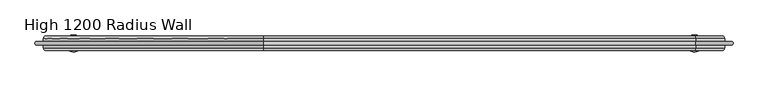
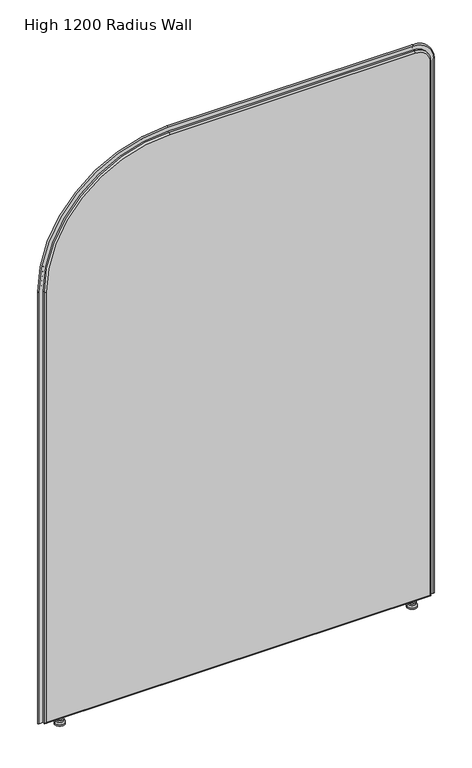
"""IFC4 building model written with IfcOpenShell, lengths in millimetres: furniture geometry, DBLTD_Sixteen3_PrivacyScreens_Artus_ArchRadius : High 1200 Radius Wall."""

from ifc_helpers import new_model, si_unit, point, frame, origin, place, context, project, spatial, polyline, circle_curve, ellipse_curve, trimmed, source, transform, mapped, element, save
from ifc_brep_helpers import plane_surface, cylinder_surface, revolved_surface, advanced_brep


def high_1200_radius_wall_2fde37d9(model_context):
    return source(origin(), model_context, "Body", "AdvancedBrep", [
        advanced_brep(
        [(542.2938623, -820.0, 22.0), (535.2938623, -820.0, 22.0), (549.2938623, -820.0, 22.0), (535.2938623, -820.0, 15.0), (549.2938623, -820.0, 15.0), (530.8431626, -820.0, 15.0), (553.744562, -820.0, 15.0), (530.8431626, -820.0, 10.0), (553.744562, -820.0, 10.0), (527.2938623, -820.0, 5.0), (557.2938623, -820.0, 5.0), (527.2938623, -820.0, 0.0), (557.2938623, -820.0, 0.0), (542.2938623, -820.0, 0.0)],
        [
            (0, 1),
            (1, 2, circle_curve(frame((542.2938623, -820.0, 22.0), z_axis=(0.0, 0.0, 1.0), x_axis=(1.0, 0.0, 0.0)), 7.0)),
            (2, 0),
            (2, 1, circle_curve(frame((542.2938623, -820.0, 22.0), z_axis=(0.0, 0.0, 1.0), x_axis=(1.0, 0.0, 0.0)), 7.0)),
            (1, 3),
            (3, 4, circle_curve(frame((542.2938623, -820.0, 15.0), z_axis=(0.0, 0.0, 1.0), x_axis=(1.0, 0.0, 0.0)), 7.0)),
            (4, 2),
            (4, 3, circle_curve(frame((542.2938623, -820.0, 15.0), z_axis=(0.0, 0.0, 1.0), x_axis=(1.0, 0.0, 0.0)), 7.0)),
            (3, 5),
            (5, 6, circle_curve(frame((542.2938623, -820.0, 15.0), z_axis=(0.0, 0.0, 1.0), x_axis=(1.0, 0.0, 0.0)), 11.4506997)),
            (6, 4),
            (6, 5, circle_curve(frame((542.2938623, -820.0, 15.0), z_axis=(0.0, 0.0, 1.0), x_axis=(1.0, 0.0, 0.0)), 11.4506997)),
            (5, 7),
            (7, 8, circle_curve(frame((542.2938623, -820.0, 10.0), z_axis=(0.0, 0.0, 1.0), x_axis=(1.0, 0.0, 0.0)), 11.4506997)),
            (8, 6),
            (8, 7, circle_curve(frame((542.2938623, -820.0, 10.0), z_axis=(0.0, 0.0, 1.0), x_axis=(1.0, 0.0, 0.0)), 11.4506997)),
            (7, 9),
            (9, 10, circle_curve(frame((542.2938623, -820.0, 5.0), z_axis=(0.0, 0.0, 1.0), x_axis=(1.0, 0.0, 0.0)), 15.0)),
            (10, 8),
            (10, 9, circle_curve(frame((542.2938623, -820.0, 5.0), z_axis=(0.0, 0.0, 1.0), x_axis=(1.0, 0.0, 0.0)), 15.0)),
            (9, 11),
            (11, 12, circle_curve(frame((542.2938623, -820.0, 0.0), z_axis=(0.0, 0.0, 1.0), x_axis=(1.0, 0.0, 0.0)), 15.0)),
            (12, 10),
            (12, 11, circle_curve(frame((542.2938623, -820.0, 0.0), z_axis=(0.0, 0.0, 1.0), x_axis=(1.0, 0.0, 0.0)), 15.0)),
            (11, 13),
            (13, 12),
        ],
        [
            plane_surface(frame((542.2938623, -820.0, 22.0), z_axis=(0.0, 0.0, 1.0), x_axis=(1.0, 0.0, 0.0))),
            cylinder_surface(frame((542.2938623, -820.0, 5.0), z_axis=(0.0, 0.0, 1.0), x_axis=(1.0, 0.0, 0.0)), 7.0),
            plane_surface(frame((542.2938623, -820.0, 15.0), z_axis=(0.0, 0.0, 1.0), x_axis=(1.0, 0.0, 0.0))),
            cylinder_surface(frame((542.2938623, -820.0, 5.0), z_axis=(0.0, 0.0, 1.0), x_axis=(1.0, 0.0, 0.0)), 11.4506997),
            revolved_surface(polyline([(557.2938623, -820.0, 5.0), (553.744562, -820.0, 10.0)]), (542.2938623, -820.0, 5.0), (0.0, 0.0, 1.0)),
            cylinder_surface(frame((542.2938623, -820.0, 5.0), z_axis=(0.0, 0.0, 1.0), x_axis=(1.0, 0.0, 0.0)), 15.0),
            plane_surface(frame((542.2938623, -820.0, 0.0), z_axis=(0.0, 0.0, -1.0), x_axis=(1.0, 0.0, 0.0))),
        ],
        [
            (0, [[1, 2, 3]]),
            (0, [[-3, 4, -1]]),
            (1, [[5, 6, 7, -2]]),
            (1, [[-7, 8, -5, -4]]),
            (2, [[9, 10, 11, -6]]),
            (2, [[-11, 12, -9, -8]]),
            (3, [[13, 14, 15, -10]]),
            (3, [[-15, 16, -13, -12]]),
            (4, [[17, 18, 19, -14]]),
            (4, [[-19, 20, -17, -16]]),
            (5, [[21, 22, 23, -18]]),
            (5, [[-23, 24, -21, -20]]),
            (6, [[25, 26, -22]]),
            (6, [[-26, -25, -24]]),
        ],
    ),
        advanced_brep(
        [(-535.2938623, -820.0, 22.0), (-542.2938623, -820.0, 22.0), (-549.2938623, -820.0, 22.0), (-535.2938623, -820.0, 15.0), (-549.2938623, -820.0, 15.0), (-530.8431626, -820.0, 15.0), (-553.744562, -820.0, 15.0), (-530.8431626, -820.0, 10.0), (-553.744562, -820.0, 10.0), (-527.2938623, -820.0, 5.0), (-557.2938623, -820.0, 5.0), (-527.2938623, -820.0, 0.0), (-557.2938623, -820.0, 0.0), (-542.2938623, -820.0, 0.0)],
        [
            (0, 1),
            (1, 2),
            (2, 0, circle_curve(frame((-542.2938623, -820.0, 22.0), z_axis=(0.0, 0.0, 1.0), x_axis=(-1.0, 0.0, 0.0)), 7.0)),
            (0, 2, circle_curve(frame((-542.2938623, -820.0, 22.0), z_axis=(0.0, 0.0, 1.0), x_axis=(-1.0, 0.0, 0.0)), 7.0)),
            (3, 0),
            (2, 4),
            (4, 3, circle_curve(frame((-542.2938623, -820.0, 15.0), z_axis=(0.0, 0.0, 1.0), x_axis=(-1.0, 0.0, 0.0)), 7.0)),
            (3, 4, circle_curve(frame((-542.2938623, -820.0, 15.0), z_axis=(0.0, 0.0, 1.0), x_axis=(-1.0, 0.0, 0.0)), 7.0)),
            (5, 3),
            (4, 6),
            (6, 5, circle_curve(frame((-542.2938623, -820.0, 15.0), z_axis=(0.0, 0.0, 1.0), x_axis=(-1.0, 0.0, 0.0)), 11.4506997)),
            (5, 6, circle_curve(frame((-542.2938623, -820.0, 15.0), z_axis=(0.0, 0.0, 1.0), x_axis=(-1.0, 0.0, 0.0)), 11.4506997)),
            (7, 5),
            (6, 8),
            (8, 7, circle_curve(frame((-542.2938623, -820.0, 10.0), z_axis=(0.0, 0.0, 1.0), x_axis=(-1.0, 0.0, 0.0)), 11.4506997)),
            (7, 8, circle_curve(frame((-542.2938623, -820.0, 10.0), z_axis=(0.0, 0.0, 1.0), x_axis=(-1.0, 0.0, 0.0)), 11.4506997)),
            (9, 7),
            (8, 10),
            (10, 9, circle_curve(frame((-542.2938623, -820.0, 5.0), z_axis=(0.0, 0.0, 1.0), x_axis=(-1.0, 0.0, 0.0)), 15.0)),
            (9, 10, circle_curve(frame((-542.2938623, -820.0, 5.0), z_axis=(0.0, 0.0, 1.0), x_axis=(-1.0, 0.0, 0.0)), 15.0)),
            (11, 9),
            (10, 12),
            (12, 11, circle_curve(frame((-542.2938623, -820.0, 0.0), z_axis=(0.0, 0.0, 1.0), x_axis=(-1.0, 0.0, 0.0)), 15.0)),
            (11, 12, circle_curve(frame((-542.2938623, -820.0, 0.0), z_axis=(0.0, 0.0, 1.0), x_axis=(-1.0, 0.0, 0.0)), 15.0)),
            (13, 11),
            (12, 13),
        ],
        [
            plane_surface(frame((-542.2938623, -820.0, 22.0), z_axis=(0.0, 0.0, 1.0), x_axis=(-1.0, 0.0, 0.0))),
            cylinder_surface(frame((-542.2938623, -820.0, 5.0), z_axis=(0.0, 0.0, -1.0), x_axis=(-1.0, 0.0, 0.0)), 7.0),
            plane_surface(frame((-542.2938623, -820.0, 15.0), z_axis=(0.0, 0.0, 1.0), x_axis=(-1.0, 0.0, 0.0))),
            cylinder_surface(frame((-542.2938623, -820.0, 5.0), z_axis=(0.0, 0.0, -1.0), x_axis=(-1.0, 0.0, 0.0)), 11.4506997),
            revolved_surface(polyline([(-553.744562, -820.0, 10.0), (-557.2938623, -820.0, 5.0)]), (-542.2938623, -820.0, 5.0), (0.0, 0.0, -1.0)),
            cylinder_surface(frame((-542.2938623, -820.0, 5.0), z_axis=(0.0, 0.0, -1.0), x_axis=(-1.0, 0.0, 0.0)), 15.0),
            plane_surface(frame((-542.2938623, -820.0, 0.0), z_axis=(0.0, 0.0, -1.0), x_axis=(-1.0, 0.0, 0.0))),
        ],
        [
            (0, [[1, 2, 3]]),
            (0, [[-2, -1, 4]]),
            (1, [[5, -3, 6, 7]]),
            (1, [[-6, -4, -5, 8]]),
            (2, [[9, -7, 10, 11]]),
            (2, [[-10, -8, -9, 12]]),
            (3, [[13, -11, 14, 15]]),
            (3, [[-14, -12, -13, 16]]),
            (4, [[17, -15, 18, 19]]),
            (4, [[-18, -16, -17, 20]]),
            (5, [[21, -19, 22, 23]]),
            (5, [[-22, -20, -21, 24]]),
            (6, [[25, -23, 26]]),
            (6, [[-26, -24, -25]]),
        ],
    ),
        advanced_brep(
        [(-590.0, -807.0, 27.0), (-590.0, -807.0, 1425.0), (-210.0, -807.0, 1805.0), (545.0, -807.0, 1805.0), (590.0, -807.0, 1760.0), (590.0, -807.0, 27.0), (590.0, -833.0, 27.0), (590.0, -833.0, 1760.0), (545.0, -833.0, 1805.0), (-210.0, -833.0, 1805.0), (-590.0, -833.0, 1425.0), (-590.0, -833.0, 27.0), (545.0, -812.0, 1810.0), (-210.0, -812.0, 1810.0), (-210.0, -828.0, 1810.0), (545.0, -828.0, 1810.0), (-595.0, -812.0, 1425.0), (-595.0, -828.0, 1425.0), (-595.0, -812.0, 22.0), (-595.0, -828.0, 22.0), (595.0, -812.0, 22.0), (595.0, -828.0, 22.0), (595.0, -812.0, 1760.0), (595.0, -828.0, 1760.0)],
        [
            (0, 1),
            (1, 2, circle_curve(frame((-210.0, -807.0, 1425.0), z_axis=(0.0, 1.0, 0.0), x_axis=(0.0, 0.0, 1.0)), 380.0)),
            (2, 3),
            (3, 4, circle_curve(frame((545.0, -807.0, 1760.0), z_axis=(0.0, 1.0, 0.0), x_axis=(1.0, 0.0, 0.0)), 45.0)),
            (4, 5),
            (5, 0),
            (6, 7),
            (7, 8, circle_curve(frame((545.0, -833.0, 1760.0), z_axis=(0.0, -1.0, 0.0), x_axis=(1.0, 0.0, 0.0)), 45.0)),
            (8, 9),
            (9, 10, circle_curve(frame((-210.0, -833.0, 1425.0), z_axis=(0.0, -1.0, 0.0), x_axis=(0.0, 0.0, 1.0)), 380.0)),
            (10, 11),
            (11, 6),
            (12, 13),
            (13, 14),
            (14, 15),
            (15, 12),
            (13, 16, circle_curve(frame((-210.0, -812.0, 1425.0), z_axis=(0.0, -1.0, 0.0), x_axis=(1.0, 0.0, 0.0)), 385.0)),
            (16, 17),
            (17, 14, circle_curve(frame((-210.0, -828.0, 1425.0), z_axis=(0.0, 1.0, 0.0), x_axis=(1.0, 0.0, 0.0)), 385.0)),
            (16, 18),
            (18, 19),
            (19, 17),
            (18, 20),
            (20, 21),
            (21, 19),
            (20, 22),
            (22, 23),
            (23, 21),
            (15, 23, circle_curve(frame((545.0, -828.0, 1760.0), z_axis=(0.0, 1.0, 0.0), x_axis=(1.0, 0.0, 0.0)), 50.0)),
            (22, 12, circle_curve(frame((545.0, -812.0, 1760.0), z_axis=(0.0, -1.0, 0.0), x_axis=(1.0, 0.0, 0.0)), 50.0)),
            (18, 0, ellipse_curve(frame((-590.0, -812.0, 27.0), z_axis=(0.7071067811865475, 0.0, -0.7071067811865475), x_axis=(0.7071067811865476, 0.0, 0.7071067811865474)), 7.0710678, 5.0)),
            (5, 20, ellipse_curve(frame((590.0, -812.0, 27.0), z_axis=(-0.7071067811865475, 0.0, -0.7071067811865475), x_axis=(0.7071067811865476, 0.0, -0.7071067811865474)), 7.0710678, 5.0)),
            (11, 19, ellipse_curve(frame((-590.0, -828.0, 27.0), z_axis=(0.7071067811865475, 0.0, -0.7071067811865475), x_axis=(0.7071067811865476, 0.0, 0.7071067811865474)), 7.0710678, 5.0)),
            (21, 6, ellipse_curve(frame((590.0, -828.0, 27.0), z_axis=(-0.7071067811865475, 0.0, -0.7071067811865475), x_axis=(0.7071067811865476, 0.0, -0.7071067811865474)), 7.0710678, 5.0)),
            (4, 22, circle_curve(frame((590.0, -812.0, 1760.0), z_axis=(0.0, 0.0, -1.0), x_axis=(1.0, 0.0, 0.0)), 5.0)),
            (23, 7, circle_curve(frame((590.0, -828.0, 1760.0), z_axis=(0.0, 0.0, -1.0), x_axis=(1.0, 0.0, 0.0)), 5.0)),
            (3, 12, circle_curve(frame((545.0, -812.0, 1805.0), z_axis=(1.0, 0.0, 0.0), x_axis=(0.0, 0.0, 1.0)), 5.0)),
            (15, 8, circle_curve(frame((545.0, -828.0, 1805.0), z_axis=(1.0, 0.0, 0.0), x_axis=(0.0, 0.0, 1.0)), 5.0)),
            (2, 13, circle_curve(frame((-210.0, -812.0, 1805.0), z_axis=(1.0, 0.0, 0.0), x_axis=(0.0, 0.0, 1.0)), 5.0)),
            (14, 9, circle_curve(frame((-210.0, -828.0, 1805.0), z_axis=(1.0, 0.0, 0.0), x_axis=(0.0, 0.0, 1.0)), 5.0)),
            (1, 16, circle_curve(frame((-590.0, -812.0, 1425.0), z_axis=(0.0, 0.0, 1.0), x_axis=(-1.0, 0.0, 0.0)), 5.0)),
            (17, 10, circle_curve(frame((-590.0, -828.0, 1425.0), z_axis=(0.0, 0.0, 1.0), x_axis=(-1.0, 0.0, 0.0)), 5.0)),
        ],
        [
            plane_surface(frame((-210.0, -807.0, 1810.0), z_axis=(0.0, 1.0, 0.0), x_axis=(-1.0, 0.0, 0.0))),
            plane_surface(frame((-210.0, -833.0, 1810.0), z_axis=(0.0, -1.0, 0.0), x_axis=(1.0, 0.0, 0.0))),
            plane_surface(frame((545.0, -807.0, 1810.0), z_axis=(0.0, 0.0, 1.0), x_axis=(0.0, -1.0, 0.0))),
            cylinder_surface(frame((-210.0, -833.0, 1425.0), z_axis=(0.0, 1.0, 0.0), x_axis=(1.0, 0.0, 0.0)), 385.0),
            plane_surface(frame((-595.0, -807.0, 1425.0), z_axis=(-1.0, 0.0, 0.0), x_axis=(0.0, -1.0, 0.0))),
            plane_surface(frame((-595.0, -807.0, 22.0), z_axis=(0.0, 0.0, -1.0), x_axis=(0.0, -1.0, 0.0))),
            plane_surface(frame((595.0, -807.0, 22.0), z_axis=(1.0, 0.0, 0.0), x_axis=(0.0, -1.0, 0.0))),
            cylinder_surface(frame((545.0, -833.0, 1760.0), z_axis=(0.0, 1.0, 0.0), x_axis=(1.0, 0.0, 0.0)), 50.0),
            cylinder_surface(frame((-595.0, -812.0, 27.0), z_axis=(1.0, 0.0, 0.0), x_axis=(0.0, 0.0, -1.0)), 5.0),
            cylinder_surface(frame((-595.0, -828.0, 27.0), z_axis=(1.0, 0.0, 0.0), x_axis=(0.0, 0.0, -1.0)), 5.0),
            cylinder_surface(frame((590.0, -812.0, 22.0), z_axis=(0.0, 0.0, 1.0), x_axis=(1.0, 0.0, 0.0)), 5.0),
            cylinder_surface(frame((590.0, -828.0, 22.0), z_axis=(0.0, 0.0, 1.0), x_axis=(1.0, 0.0, 0.0)), 5.0),
            revolved_surface(trimmed(ellipse_curve(frame((590.0, -812.0, 1760.0), z_axis=(0.0, 0.0, 1.0), x_axis=(1.0, 0.0, 0.0)), 5.0, 5.0), [point((595.0, -812.0, 1760.0))], [point((590.0, -807.0, 1760.0))], True, "CARTESIAN"), (545.0, -807.0, 1760.0), (0.0, 1.0, 0.0)),
            revolved_surface(trimmed(ellipse_curve(frame((590.0, -828.0, 1760.0), z_axis=(0.0, 0.0, 1.0), x_axis=(1.0, 0.0, 0.0)), 5.0, 5.0), [point((590.0, -833.0, 1760.0))], [point((595.0, -828.0, 1760.0))], True, "CARTESIAN"), (545.0, -807.0, 1760.0), (0.0, 1.0, 0.0)),
            cylinder_surface(frame((545.0, -812.0, 1805.0), z_axis=(-1.0, 0.0, 0.0), x_axis=(0.0, 0.0, 1.0)), 5.0),
            cylinder_surface(frame((545.0, -828.0, 1805.0), z_axis=(-1.0, 0.0, 0.0), x_axis=(0.0, 0.0, 1.0)), 5.0),
            revolved_surface(trimmed(ellipse_curve(frame((-210.0, -812.0, 1805.0), z_axis=(-1.0, 0.0, 0.0), x_axis=(0.0, 0.0, 1.0)), 5.0, 5.0), [point((-210.0, -812.0, 1810.0))], [point((-210.0, -807.0, 1805.0))], True, "CARTESIAN"), (-210.0, -807.0, 1425.0), (0.0, 1.0, 0.0)),
            revolved_surface(trimmed(ellipse_curve(frame((-210.0, -828.0, 1805.0), z_axis=(-1.0, 0.0, 0.0), x_axis=(0.0, 0.0, 1.0)), 5.0, 5.0), [point((-210.0, -833.0, 1805.0))], [point((-210.0, -828.0, 1810.0))], True, "CARTESIAN"), (-210.0, -807.0, 1425.0), (0.0, 1.0, 0.0)),
            cylinder_surface(frame((-590.0, -812.0, 1425.0), z_axis=(0.0, 0.0, -1.0), x_axis=(-1.0, 0.0, 0.0)), 5.0),
            cylinder_surface(frame((-590.0, -828.0, 1425.0), z_axis=(0.0, 0.0, -1.0), x_axis=(-1.0, 0.0, 0.0)), 5.0),
        ],
        [
            (0, [[1, 2, 3, 4, 5, 6]]),
            (1, [[7, 8, 9, 10, 11, 12]]),
            (2, [[13, 14, 15, 16]]),
            (3, [[17, 18, 19, -14]]),
            (4, [[20, 21, 22, -18]]),
            (5, [[23, 24, 25, -21]]),
            (6, [[26, 27, 28, -24]]),
            (7, [[29, -27, 30, -16]]),
            (8, [[-23, 31, -6, 32]]),
            (9, [[-12, 33, -25, 34]]),
            (10, [[-5, 35, -26, -32]]),
            (11, [[-28, 36, -7, -34]]),
            (12, [[-4, 37, -30, -35]]),
            (13, [[-29, 38, -8, -36]]),
            (14, [[-3, 39, -13, -37]]),
            (15, [[-15, 40, -9, -38]]),
            (16, [[-2, 41, -17, -39]]),
            (17, [[-19, 42, -10, -40]]),
            (18, [[-20, -41, -1, -31]]),
            (19, [[-11, -42, -22, -33]]),
        ],
    ),
        advanced_brep(
        [(606.9577057, -823.0, 22.0), (595.0, -823.0, 22.0), (595.0, -817.0, 22.0), (606.9577057, -817.0, 22.0), (606.9577057, -817.0, 1760.0), (606.9577057, -823.0, 1760.0), (595.0, -817.0, 1760.0), (545.0, -817.0, 1810.0), (-210.0, -817.0, 1810.0), (-595.0, -817.0, 1425.0), (-595.0, -817.0, 22.0), (-606.9577057, -817.0, 22.0), (-606.9577057, -817.0, 1425.0), (-210.0, -817.0, 1821.9577057), (545.0, -817.0, 1821.9577057), (595.0, -823.0, 1760.0), (545.0, -823.0, 1821.9577057), (-210.0, -823.0, 1821.9577057), (-606.9577057, -823.0, 1425.0), (-606.9577057, -823.0, 22.0), (-595.0, -823.0, 22.0), (-595.0, -823.0, 1425.0), (-210.0, -823.0, 1810.0), (545.0, -823.0, 1810.0)],
        [
            (0, 1),
            (1, 2),
            (2, 3),
            (3, 0, circle_curve(frame((606.9577057, -820.0, 22.0), z_axis=(0.0, 0.0, -1.0), x_axis=(1.0, 0.0, 0.0)), 3.0)),
            (3, 4),
            (4, 5, circle_curve(frame((606.9577057, -820.0, 1760.0), z_axis=(0.0, 0.0, -1.0), x_axis=(1.0, 0.0, 0.0)), 3.0)),
            (5, 0),
            (2, 6),
            (6, 7, circle_curve(frame((545.0, -817.0, 1760.0), z_axis=(0.0, -1.0, 0.0), x_axis=(1.0, 0.0, 0.0)), 50.0)),
            (7, 8),
            (8, 9, circle_curve(frame((-210.0, -817.0, 1425.0), z_axis=(0.0, -1.0, 0.0), x_axis=(0.0, 0.0, 1.0)), 385.0)),
            (9, 10),
            (10, 11),
            (11, 12),
            (12, 13, circle_curve(frame((-210.0, -817.0, 1425.0), z_axis=(0.0, 1.0, 0.0), x_axis=(0.0, 0.0, 1.0)), 396.9577057)),
            (13, 14),
            (14, 4, circle_curve(frame((545.0, -817.0, 1760.0), z_axis=(0.0, 1.0, 0.0), x_axis=(1.0, 0.0, 0.0)), 61.9577057)),
            (1, 15),
            (15, 6),
            (5, 16, circle_curve(frame((545.0, -823.0, 1760.0), z_axis=(0.0, -1.0, 0.0), x_axis=(1.0, 0.0, 0.0)), 61.9577057)),
            (16, 17),
            (17, 18, circle_curve(frame((-210.0, -823.0, 1425.0), z_axis=(0.0, -1.0, 0.0), x_axis=(0.0, 0.0, 1.0)), 396.9577057)),
            (18, 19),
            (19, 20),
            (20, 21),
            (21, 22, circle_curve(frame((-210.0, -823.0, 1425.0), z_axis=(0.0, 1.0, 0.0), x_axis=(0.0, 0.0, 1.0)), 385.0)),
            (22, 23),
            (23, 15, circle_curve(frame((545.0, -823.0, 1760.0), z_axis=(0.0, 1.0, 0.0), x_axis=(1.0, 0.0, 0.0)), 50.0)),
            (14, 16, circle_curve(frame((545.0, -820.0, 1821.9577057), z_axis=(1.0, 0.0, 0.0), x_axis=(0.0, 0.0, 1.0)), 3.0)),
            (23, 7),
            (13, 17, circle_curve(frame((-210.0, -820.0, 1821.9577057), z_axis=(1.0, 0.0, 0.0), x_axis=(0.0, 0.0, 1.0)), 3.0)),
            (22, 8),
            (12, 18, circle_curve(frame((-606.9577057, -820.0, 1425.0), z_axis=(0.0, 0.0, 1.0), x_axis=(-1.0, 0.0, 0.0)), 3.0)),
            (21, 9),
            (19, 11, circle_curve(frame((-606.9577057, -820.0, 22.0), z_axis=(0.0, 0.0, -1.0), x_axis=(-1.0, 0.0, 0.0)), 3.0)),
            (10, 20),
        ],
        [
            plane_surface(frame((595.0, -807.0, 22.0), z_axis=(0.0, 0.0, -1.0), x_axis=(1.0, 0.0, 0.0))),
            cylinder_surface(frame((606.9577057, -820.0, 22.0), z_axis=(0.0, 0.0, -1.0), x_axis=(1.0, 0.0, 0.0)), 3.0),
            plane_surface(frame((606.9577057, -817.0, 22.0), z_axis=(0.0, 1.0, 0.0), x_axis=(0.0, 0.0, 1.0))),
            plane_surface(frame((595.0, -817.0, 22.0), z_axis=(-1.0, 0.0, 0.0), x_axis=(0.0, 0.0, 1.0))),
            plane_surface(frame((595.0, -823.0, 22.0), z_axis=(0.0, -1.0, 0.0), x_axis=(0.0, 0.0, 1.0))),
            revolved_surface(trimmed(ellipse_curve(frame((606.9577057, -820.0, 1760.0), z_axis=(0.0, 0.0, 1.0), x_axis=(1.0, 0.0, 0.0)), 3.0, 3.0), [point((606.9577057, -823.0, 1760.0))], [point((606.9577057, -817.0, 1760.0))], True, "CARTESIAN"), (545.0, -807.0, 1760.0), (0.0, 1.0, 0.0)),
            revolved_surface(polyline([(595.0, -817.0, 1760.0), (595.0, -823.0, 1760.0)]), (545.0, -807.0, 1760.0), (0.0, 1.0, 0.0)),
            cylinder_surface(frame((545.0, -820.0, 1821.9577057), z_axis=(1.0, 0.0, 0.0), x_axis=(0.0, 0.0, 1.0)), 3.0),
            plane_surface(frame((545.0, -817.0, 1810.0), z_axis=(0.0, 0.0, -1.0), x_axis=(-1.0, 0.0, 0.0))),
            revolved_surface(trimmed(ellipse_curve(frame((-210.0, -820.0, 1821.9577057), z_axis=(-1.0, 0.0, 0.0), x_axis=(0.0, 0.0, 1.0)), 3.0, 3.0), [point((-210.0, -823.0, 1821.9577057))], [point((-210.0, -817.0, 1821.9577057))], True, "CARTESIAN"), (-210.0, -807.0, 1425.0), (0.0, 1.0, 0.0)),
            revolved_surface(polyline([(-210.0, -817.0, 1810.0), (-210.0, -823.0, 1810.0)]), (-210.0, -807.0, 1425.0), (0.0, 1.0, 0.0)),
            plane_surface(frame((-595.0, -807.0, 22.0), z_axis=(0.0, 0.0, -1.0), x_axis=(-1.0, 0.0, 0.0))),
            cylinder_surface(frame((-606.9577057, -820.0, 1425.0), z_axis=(0.0, 0.0, 1.0), x_axis=(-1.0, 0.0, 0.0)), 3.0),
            plane_surface(frame((-595.0, -817.0, 1425.0), z_axis=(1.0, 0.0, 0.0), x_axis=(0.0, 0.0, -1.0))),
        ],
        [
            (0, [[1, 2, 3, 4]]),
            (1, [[5, 6, 7, -4]]),
            (2, [[8, 9, 10, 11, 12, 13, 14, 15, 16, 17, -5, -3]]),
            (3, [[18, 19, -8, -2]]),
            (4, [[-7, 20, 21, 22, 23, 24, 25, 26, 27, 28, -18, -1]]),
            (5, [[29, -20, -6, -17]]),
            (6, [[30, -9, -19, -28]]),
            (7, [[-16, 31, -21, -29]]),
            (8, [[-27, 32, -10, -30]]),
            (9, [[33, -22, -31, -15]]),
            (10, [[34, -11, -32, -26]]),
            (11, [[35, -13, 36, -24]]),
            (12, [[-14, -35, -23, -33]]),
            (13, [[-25, -36, -12, -34]]),
        ],
    ),
    ])


if __name__ == "__main__":
    model = new_model("IFC4")
    model_context = context("Model", 3, world=origin())
    ifc_project = project(units=[si_unit("LENGTHUNIT", "METRE", prefix="MILLI")], contexts=[model_context])
    site = spatial("IfcSite", under=ifc_project)
    building = spatial("IfcBuilding", under=site)
    placement = place(None, origin())
    high_1200_radius_wall_shape = high_1200_radius_wall_2fde37d9(model_context)
    element("IfcFurniture", 1, ObjectType="DBLTD_Sixteen3_PrivacyScreens_Artus_ArchRadius : High 1200 Radius Wall", at=placement, inside=building, context=model_context, shape_type="MappedRepresentation", body=[
        mapped(high_1200_radius_wall_shape, transform((0.0, 0.0, 0.0), x_axis=(1.0, 0.0, 0.0), y_axis=(0.0, 1.0, 0.0), z_axis=(0.0, 0.0, 1.0))),
    ])
    save(model, "model.ifc")
